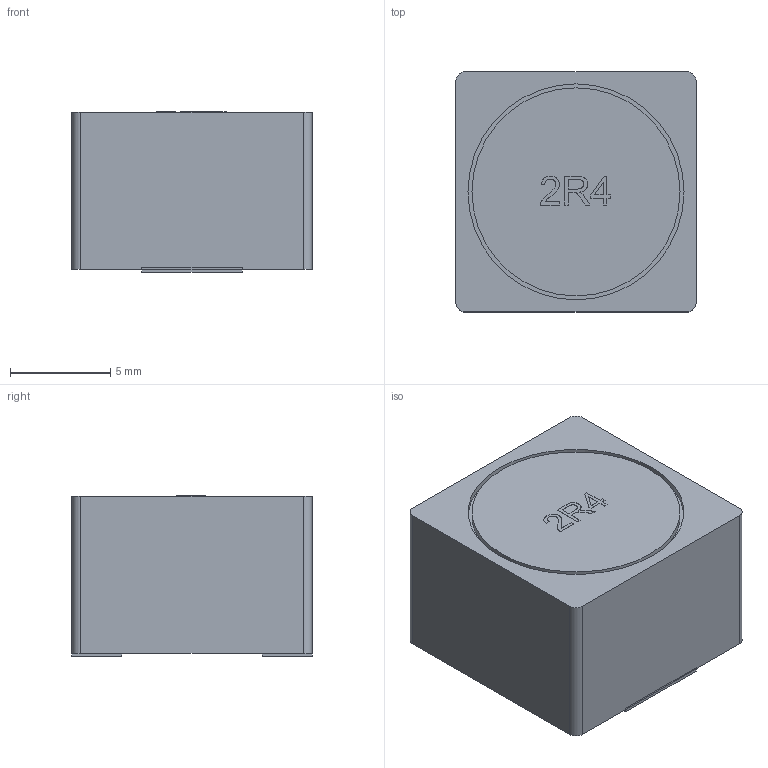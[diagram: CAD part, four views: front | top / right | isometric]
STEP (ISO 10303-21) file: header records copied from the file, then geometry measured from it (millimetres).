
FILE_DESCRIPTION(('Open CASCADE Model'),'2;1');
FILE_NAME('Open CASCADE Shape Model','2026-10-09T18:49:10',('Author'),( 'Open CASCADE'),'Open CASCADE STEP processor 7.9','Open CASCADE 7.9' ,'Unknown');
FILE_SCHEMA(('AUTOMOTIVE_DESIGN { 1 0 10303 214 1 1 1 1 }'));
Length unit declared in the file: millimetre
Products named in the file (6): Sumida_CDRH127_LD; core_top; ferrite; terminal0; terminal1; mark_4
Assembly tree (5 placements, depth 2):
  Sumida_CDRH127_LD
    core_top
    ferrite
    terminal0
    terminal1
    mark_4
Bounding box: 12 x 12 x 8.01 mm (x, y, z)
Volume: 1132.6 mm3; surface area: 908.7 mm2
Topology: 7 solids, 7 shells, 96 faces, 243 edges, 162 vertices
Faces by surface type: plane 56, extrusion 34, cylinder 6
Full cylindrical faces by diameter (mm): 10.4 x1, 10.8 x1
Entity records: 6235 total; most frequent: CARTESIAN_POINT 1363, DIRECTION 770, VECTOR 603, LINE 569, ORIENTED_EDGE 486, PCURVE 486, DEFINITIONAL_REPRESENTATION 486, EDGE_CURVE 243
